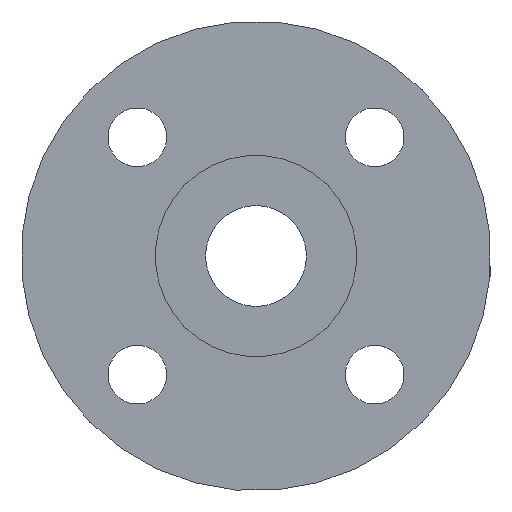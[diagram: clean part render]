
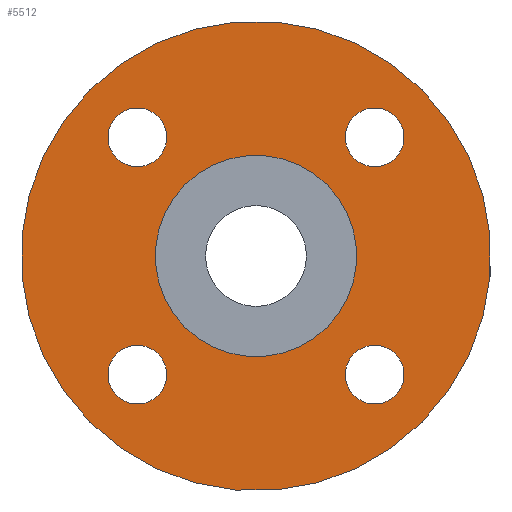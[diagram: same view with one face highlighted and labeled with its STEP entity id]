
A CAD part, left-side view. The second image highlights one B-rep face of the part: STEP entity #5512.
In plain terms, the highlighted planar face has unit normal (-1, 0, 0).
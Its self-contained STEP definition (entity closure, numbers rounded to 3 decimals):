
#106=CIRCLE('',#5855,6.);
#108=CIRCLE('',#5860,1.75);
#109=CIRCLE('',#5861,1.75);
#110=CIRCLE('',#5862,1.75);
#111=CIRCLE('',#5863,1.75);
#112=CIRCLE('',#5864,14.);
#504=ORIENTED_EDGE('',*,*,#2095,.F.);
#505=ORIENTED_EDGE('',*,*,#2096,.F.);
#506=ORIENTED_EDGE('',*,*,#2097,.F.);
#507=ORIENTED_EDGE('',*,*,#2098,.F.);
#508=ORIENTED_EDGE('',*,*,#2099,.F.);
#509=ORIENTED_EDGE('',*,*,#2093,.T.);
#2093=EDGE_CURVE('',#2890,#2890,#106,.T.);
#2095=EDGE_CURVE('',#2892,#2892,#108,.T.);
#2096=EDGE_CURVE('',#2893,#2893,#109,.T.);
#2097=EDGE_CURVE('',#2894,#2894,#110,.T.);
#2098=EDGE_CURVE('',#2895,#2895,#111,.T.);
#2099=EDGE_CURVE('',#2896,#2896,#112,.T.);
#2890=VERTEX_POINT('',#8676);
#2892=VERTEX_POINT('',#8683);
#2893=VERTEX_POINT('',#8685);
#2894=VERTEX_POINT('',#8687);
#2895=VERTEX_POINT('',#8689);
#2896=VERTEX_POINT('',#8691);
#4517=EDGE_LOOP('',(#504));
#4518=EDGE_LOOP('',(#505));
#4519=EDGE_LOOP('',(#506));
#4520=EDGE_LOOP('',(#507));
#4521=EDGE_LOOP('',(#508));
#4522=EDGE_LOOP('',(#509));
#4914=FACE_BOUND('',#4517,.T.);
#4915=FACE_BOUND('',#4518,.T.);
#4916=FACE_BOUND('',#4519,.T.);
#4917=FACE_BOUND('',#4520,.T.);
#4918=FACE_BOUND('',#4521,.T.);
#4919=FACE_BOUND('',#4522,.T.);
#5264=PLANE('',#5859);
#5512=ADVANCED_FACE('',(#4914,#4915,#4916,#4917,#4918,#4919),#5264,.F.);
#5855=AXIS2_PLACEMENT_3D('',#8675,#6341,#6342);
#5859=AXIS2_PLACEMENT_3D('',#8681,#6349,#6350);
#5860=AXIS2_PLACEMENT_3D('',#8682,#6351,#6352);
#5861=AXIS2_PLACEMENT_3D('',#8684,#6353,#6354);
#5862=AXIS2_PLACEMENT_3D('',#8686,#6355,#6356);
#5863=AXIS2_PLACEMENT_3D('',#8688,#6357,#6358);
#5864=AXIS2_PLACEMENT_3D('',#8690,#6359,#6360);
#6341=DIRECTION('',(1.,0.,0.));
#6342=DIRECTION('',(0.,0.707,-0.707));
#6349=DIRECTION('',(1.,0.,0.));
#6350=DIRECTION('',(0.,0.707,-0.707));
#6351=DIRECTION('',(-1.,0.,0.));
#6352=DIRECTION('',(0.,-0.707,0.707));
#6353=DIRECTION('',(-1.,0.,0.));
#6354=DIRECTION('',(0.,-0.707,0.707));
#6355=DIRECTION('',(-1.,0.,0.));
#6356=DIRECTION('',(0.,-0.707,0.707));
#6357=DIRECTION('',(-1.,0.,0.));
#6358=DIRECTION('',(0.,-0.707,0.707));
#6359=DIRECTION('',(1.,0.,0.));
#6360=DIRECTION('',(0.,0.707,-0.707));
#8675=CARTESIAN_POINT('',(12.5,0.,0.));
#8676=CARTESIAN_POINT('',(12.5,4.243,-4.243));
#8681=CARTESIAN_POINT('',(12.5,0.,0.));
#8682=CARTESIAN_POINT('',(12.5,7.071,-7.071));
#8683=CARTESIAN_POINT('',(12.5,5.834,-5.834));
#8684=CARTESIAN_POINT('',(12.5,-7.071,-7.071));
#8685=CARTESIAN_POINT('',(12.5,-8.309,-5.834));
#8686=CARTESIAN_POINT('',(12.5,-7.071,7.071));
#8687=CARTESIAN_POINT('',(12.5,-8.309,8.309));
#8688=CARTESIAN_POINT('',(12.5,7.071,7.071));
#8689=CARTESIAN_POINT('',(12.5,5.834,8.309));
#8690=CARTESIAN_POINT('',(12.5,0.,0.));
#8691=CARTESIAN_POINT('',(12.5,9.899,-9.899));
